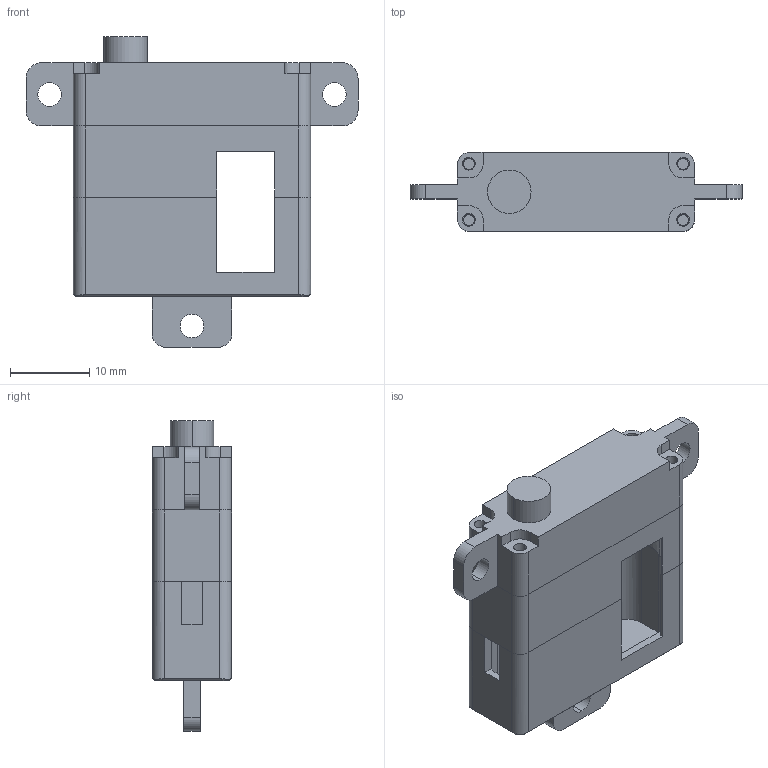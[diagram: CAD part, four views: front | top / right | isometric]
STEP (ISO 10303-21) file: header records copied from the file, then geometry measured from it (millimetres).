
FILE_DESCRIPTION (( 'STEP AP214' ), '1' );
FILE_NAME ('DS135MG_DM_20207.STEP', '2023-11-04T08:19:20', ( '' ), ( '' ), 'SwSTEP 2.0', 'SolidWorks 2016', '' );
FILE_SCHEMA (( 'AUTOMOTIVE_DESIGN' ));
Length unit declared in the file: millimetre
Products named in the file (1): DS135MG_DM_20207
Bounding box: 42 x 10 x 39.3 mm (x, y, z)
Volume: 3855.6 mm3; surface area: 6400.8 mm2
Topology: 4 solids, 4 shells, 259 faces, 735 edges, 488 vertices
Faces by surface type: plane 134, cylinder 120, cone 5
Entity records: 8815 total; most frequent: CARTESIAN_POINT 1766, DIRECTION 1488, ORIENTED_EDGE 1470, EDGE_CURVE 735, AXIS2_PLACEMENT_3D 528, VERTEX_POINT 488, LINE 432, VECTOR 432
